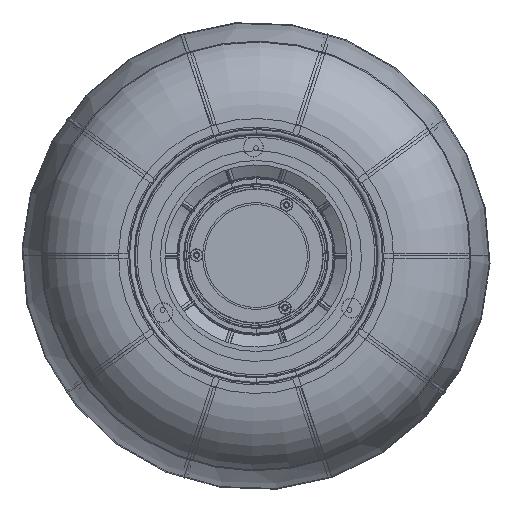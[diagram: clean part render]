
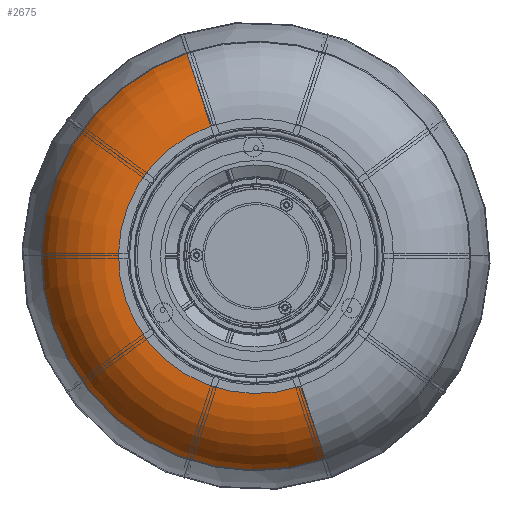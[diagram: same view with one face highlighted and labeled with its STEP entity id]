
A CAD part, front view. The second image highlights one B-rep face of the part: STEP entity #2675.
In plain terms, the highlighted toroidal (fillet/blend) face has major radius 69.5 mm and minor radius 42 mm.
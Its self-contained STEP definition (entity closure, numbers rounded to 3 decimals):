
#207 = CARTESIAN_POINT ( 'NONE',  ( 0., 35.4, -69.5 ) ) ;
#862 = ORIENTED_EDGE ( 'NONE', *, *, #7079, .F. ) ;
#1168 = ORIENTED_EDGE ( 'NONE', *, *, #13107, .F. ) ;
#1643 = VERTEX_POINT ( 'NONE', #11065 ) ;
#2159 = AXIS2_PLACEMENT_3D ( 'NONE', #20693, #9281, #4542 ) ;
#2346 = CARTESIAN_POINT ( 'NONE',  ( 0., 35.4, 0. ) ) ;
#2458 = AXIS2_PLACEMENT_3D ( 'NONE', #6691, #5012, #18008 ) ;
#2675 = ADVANCED_FACE ( 'NONE', ( #13031 ), #8754, .T. ) ;
#4463 = CARTESIAN_POINT ( 'NONE',  ( 0., 20.055, -108.596 ) ) ;
#4542 = DIRECTION ( 'NONE',  ( 0., 0., 1. ) ) ;
#5012 = DIRECTION ( 'NONE',  ( 0., 1., 0. ) ) ;
#5036 = DIRECTION ( 'NONE',  ( 1., 0., 0. ) ) ;
#6363 = DIRECTION ( 'NONE',  ( 0., 0., 1. ) ) ;
#6691 = CARTESIAN_POINT ( 'NONE',  ( 0., -6.6, 0. ) ) ;
#6756 = AXIS2_PLACEMENT_3D ( 'NONE', #2346, #16731, #16964 ) ;
#7079 = EDGE_CURVE ( 'NONE', #16771, #13850, #18200, .T. ) ;
#7811 = EDGE_CURVE ( 'NONE', #16759, #1643, #17773, .T. ) ;
#8738 = CIRCLE ( 'NONE', #20871, 42. ) ;
#8754 = TOROIDAL_SURFACE ( 'NONE', #6756, 69.5, 42. ) ;
#8995 = ORIENTED_EDGE ( 'NONE', *, *, #7811, .T. ) ;
#9281 = DIRECTION ( 'NONE',  ( 0., 1., 0. ) ) ;
#10025 = DIRECTION ( 'NONE',  ( 0., 0., -1. ) ) ;
#10518 = EDGE_LOOP ( 'NONE', ( #1168, #8995, #19500, #862 ) ) ;
#11065 = CARTESIAN_POINT ( 'NONE',  ( 0., -6.6, 69.5 ) ) ;
#11484 = CIRCLE ( 'NONE', #18422, 42. ) ;
#12906 = CARTESIAN_POINT ( 'NONE',  ( 0., 35.4, 69.5 ) ) ;
#13031 = FACE_OUTER_BOUND ( 'NONE', #10518, .T. ) ;
#13042 = DIRECTION ( 'NONE',  ( -1., 0., 0. ) ) ;
#13107 = EDGE_CURVE ( 'NONE', #16759, #16771, #8738, .T. ) ;
#13850 = VERTEX_POINT ( 'NONE', #20199 ) ;
#14641 = EDGE_CURVE ( 'NONE', #1643, #13850, #11484, .T. ) ;
#16731 = DIRECTION ( 'NONE',  ( 0., 1., 0. ) ) ;
#16759 = VERTEX_POINT ( 'NONE', #20325 ) ;
#16771 = VERTEX_POINT ( 'NONE', #4463 ) ;
#16964 = DIRECTION ( 'NONE',  ( 0., 0., 1. ) ) ;
#17773 = CIRCLE ( 'NONE', #2458, 69.5 ) ;
#18008 = DIRECTION ( 'NONE',  ( 0., 0., 1. ) ) ;
#18200 = CIRCLE ( 'NONE', #2159, 108.596 ) ;
#18422 = AXIS2_PLACEMENT_3D ( 'NONE', #12906, #13042, #6363 ) ;
#19500 = ORIENTED_EDGE ( 'NONE', *, *, #14641, .T. ) ;
#20199 = CARTESIAN_POINT ( 'NONE',  ( 0., 20.055, 108.596 ) ) ;
#20325 = CARTESIAN_POINT ( 'NONE',  ( 0., -6.6, -69.5 ) ) ;
#20693 = CARTESIAN_POINT ( 'NONE',  ( 0., 20.055, 0. ) ) ;
#20871 = AXIS2_PLACEMENT_3D ( 'NONE', #207, #5036, #10025 ) ;
